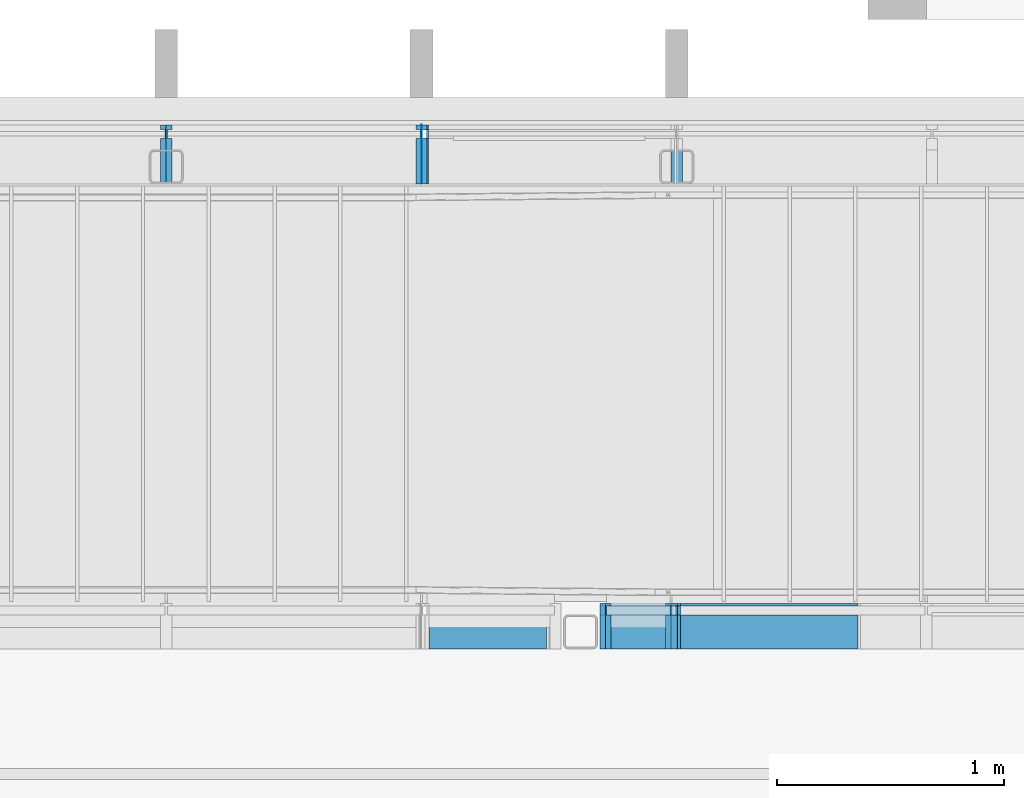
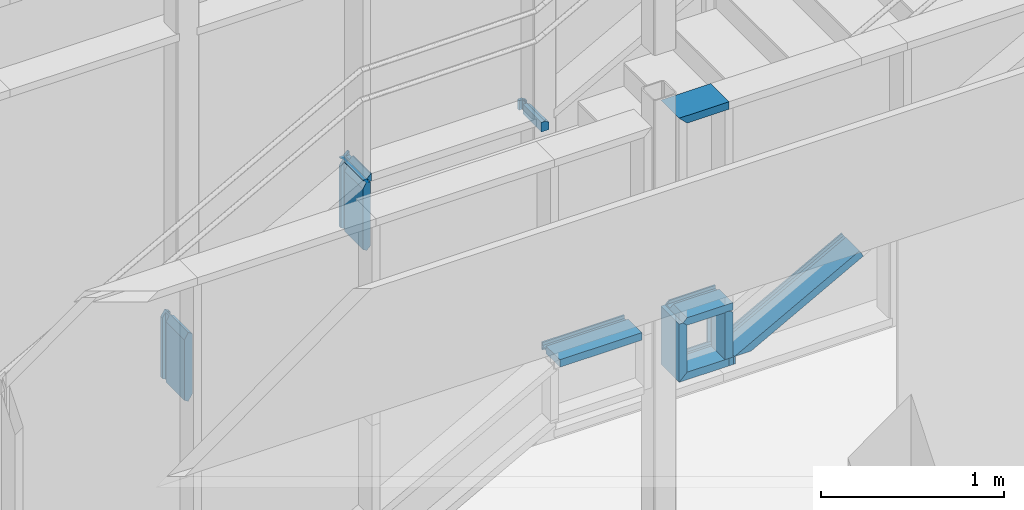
# One storey, part 68 of 301: 15 members, 3 elements without a shape of their own.
"""IFC2X3 building model written with IfcOpenShell, lengths in millimetres."""

from ifc_helpers import new_model, entity, si_unit, converted_unit, derived_unit, money_unit, direction, frame, origin_with_axes, place, context, subcontext, project, spatial, faceted_brep, material, type_object, element, aggregate, save


model = new_model("IFC2X3")

# Units and contexts
model_context = context("Model", 3, precision=0.01, world=origin_with_axes(), true_north=direction((0.0, 1.0)))
body_context = subcontext(model_context, "Body", "Model", "MODEL_VIEW")
ifc_project = project(units=[si_unit("LENGTHUNIT", "METRE", prefix="MILLI"), si_unit("AREAUNIT", "SQUARE_METRE"), si_unit("VOLUMEUNIT", "CUBIC_METRE"), converted_unit("PLANEANGLEUNIT", "DEGREE", entity("IfcPlaneAngleMeasure", 0.0174532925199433), si_unit("PLANEANGLEUNIT", "RADIAN"), dimensions=[0, 0, 0, 0, 0, 0, 0]), money_unit("EUR"), converted_unit("TIMEUNIT", "Year", entity("IfcTimeMeasure", 31557600.0), si_unit("TIMEUNIT", "SECOND"), dimensions=[0, 0, 1, 0, 0, 0, 0]), si_unit("MASSUNIT", "GRAM", prefix="KILO"), si_unit("THERMODYNAMICTEMPERATUREUNIT", "DEGREE_CELSIUS"), si_unit("LUMINOUSINTENSITYUNIT", "LUMEN"), si_unit("ENERGYUNIT", "JOULE", prefix="MEGA"), derived_unit("THERMALCONDUCTANCEUNIT", [(si_unit("POWERUNIT", "WATT"), 1), (si_unit("LENGTHUNIT", "METRE"), -1), (si_unit("THERMODYNAMICTEMPERATUREUNIT", "KELVIN"), -1)]), derived_unit("SPECIFICHEATCAPACITYUNIT", [(si_unit("ENERGYUNIT", "JOULE"), 1), (si_unit("MASSUNIT", "GRAM", prefix="KILO"), -1), (si_unit("THERMODYNAMICTEMPERATUREUNIT", "KELVIN"), -1)]), derived_unit("MASSDENSITYUNIT", [(si_unit("MASSUNIT", "GRAM", prefix="KILO"), 1), (si_unit("VOLUMEUNIT", "CUBIC_METRE"), -1)])], contexts=[model_context])

# Site, building, storey
site_placement = place(None, frame((0.0, 0.0, 8650.0), z_axis=(0.0, 0.0, 1.0), x_axis=(1.0, 0.0, 0.0)))
site = spatial("IfcSite", under=ifc_project, at=site_placement, Name="43301:001:0844", CompositionType="ELEMENT")
building_placement = place(site_placement, origin_with_axes())
building = spatial("IfcBuilding", under=site, at=building_placement, Name="Kuressaare Ametikooli tuulikute mehaanikute õppekorpus", CompositionType="ELEMENT")
storey_placement = place(building_placement, origin_with_axes())
storey = spatial("IfcBuildingStorey", under=building, at=storey_placement, Name="1.korrus", CompositionType="ELEMENT", Elevation=0.0)

# Curtain wall, members
curtain_wall_type = type_object("IfcCurtainWallType", Name="Curtain Wall Type", PredefinedType="NOTDEFINED")
curtain_wall_1_placement = place(storey_placement, frame((116704.6026822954, 28579.57374875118, 35.00000000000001), z_axis=(0.0, 0.0, 1.0), x_axis=(1.0, 0.0, 0.0)))
curtain_wall_1 = element("IfcCurtainWall", 1, at=curtain_wall_1_placement, inside=storey, type_object=curtain_wall_type, Name="KF-1.1")
ifc_material = material(Name="Aluminium")
member_type_1 = type_object("IfcMemberType", Name="Mullion Frame 50 x 260", PredefinedType="NOTDEFINED")
member_1_placement = place(curtain_wall_1_placement, frame((-5062.5, 0.0, 2040.00001873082), z_axis=(0.0, 0.0, 1.0), x_axis=(-1.0, 0.0, 0.0)))
member_1 = element("IfcMember", 2, at=member_1_placement, type_object=member_type_1, material=ifc_material, context=body_context, shape_type="Brep", body=[
    faceted_brep([(-4.999999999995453, 19.99999999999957, 60.84990079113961), (-4.999999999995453, -19.99999999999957, 60.84990079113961), (-25.00000000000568, -19.99999999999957, 48.95795386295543), (-25.00000000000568, -39.99999999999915, 48.95795386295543), (0.0, -39.99999999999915, 63.82288752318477), (0.0, 219.9999999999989, 63.82288752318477), (-25.00000000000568, 219.9999999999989, 48.95795386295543), (-25.00000000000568, 19.99999999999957, 48.95795386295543), (-4.999999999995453, 19.99999999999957, 0.0), (-4.999999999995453, -19.99999999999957, 0.0), (-25.00000000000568, -19.99999999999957, 0.0), (-25.00000000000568, -39.99999999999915, 0.0), (25.00000000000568, -39.99999999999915, 0.0), (25.00000000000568, -39.99999999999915, 63.82288752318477), (25.00000000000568, -19.99999999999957, 63.82288752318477), (4.999999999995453, -19.99999999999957, 63.82288752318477), (4.999999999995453, 19.99999999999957, 63.82288752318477), (25.00000000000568, 19.99999999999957, 63.82288752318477), (25.00000000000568, 219.9999999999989, 63.82288752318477), (25.00000000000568, 219.9999999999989, 0.0), (-25.00000000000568, 219.9999999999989, 0.0), (-25.00000000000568, 19.99999999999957, 0.0), (25.00000000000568, 19.99999999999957, 0.0), (4.999999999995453, 19.99999999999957, 0.0), (4.999999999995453, -19.99999999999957, 0.0), (25.00000000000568, -19.99999999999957, 0.0)], [[[0, 1, 2, 3, 4, 5, 6, 7]], [[0, 8, 9, 1]], [[1, 9, 10, 2]], [[10, 11, 3, 2]], [[11, 12, 13, 4, 3]], [[5, 4, 13, 14, 15, 16, 17, 18]], [[18, 19, 20, 6, 5]], [[7, 6, 20, 21]], [[7, 21, 8, 0]], [[9, 8, 21, 20, 19, 22, 23, 24, 25, 12, 11, 10]], [[25, 14, 13, 12]], [[14, 25, 24, 15]], [[16, 15, 24, 23]], [[17, 16, 23, 22]], [[17, 22, 19, 18]]]),
])
member_2_placement = place(curtain_wall_1_placement, frame((-6156.316775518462, 0.0, 2113.548820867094), z_axis=(-1.0, 0.0, 0.0), x_axis=(0.0, 0.0, -1.0)))
member_2 = element("IfcMember", 3, at=member_2_placement, type_object=member_type_1, material=ifc_material, context=body_context, shape_type="Brep", body=[
    faceted_brep([(-4.999999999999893, 19.99999999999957, 26.18322448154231), (-4.999999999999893, -19.99999999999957, 26.18322448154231), (-24.99999999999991, -19.99999999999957, 6.183224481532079), (-24.99999999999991, -39.99999999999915, 6.183224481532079), (0.0, -39.99999999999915, 31.18322448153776), (0.0, 219.9999999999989, 31.18322448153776), (-24.99999999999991, 219.9999999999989, 6.183224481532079), (-24.99999999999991, 19.99999999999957, 6.183224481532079), (-4.999999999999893, 19.99999999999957, 0.0), (-4.999999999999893, -19.99999999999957, 0.0), (-24.99999999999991, -19.99999999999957, 0.0), (-24.99999999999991, -39.99999999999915, 0.0), (24.99999999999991, -39.99999999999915, 0.0), (24.99999999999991, -39.99999999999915, 6.183224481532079), (24.99999999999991, -19.99999999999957, 6.183224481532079), (4.999999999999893, -19.99999999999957, 26.18322448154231), (4.999999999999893, 19.99999999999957, 26.18322448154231), (24.99999999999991, 19.99999999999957, 6.183224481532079), (24.99999999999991, 219.9999999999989, 6.183224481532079), (24.99999999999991, 219.9999999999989, 0.0), (-24.99999999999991, 219.9999999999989, 0.0), (-24.99999999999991, 19.99999999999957, 0.0), (24.99999999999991, 19.99999999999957, 0.0), (4.999999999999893, 19.99999999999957, 0.0), (4.999999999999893, -19.99999999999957, 0.0), (24.99999999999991, -19.99999999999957, 0.0)], [[[0, 1, 2, 3, 4, 5, 6, 7]], [[0, 8, 9, 1]], [[1, 9, 10, 2]], [[10, 11, 3, 2]], [[11, 12, 13, 4, 3]], [[5, 4, 13, 14, 15, 16, 17, 18]], [[18, 19, 20, 6, 5]], [[7, 6, 20, 21]], [[7, 21, 8, 0]], [[9, 8, 21, 20, 19, 22, 23, 24, 25, 12, 11, 10]], [[25, 14, 13, 12]], [[14, 25, 24, 15]], [[16, 15, 24, 23]], [[17, 16, 23, 22]], [[17, 22, 19, 18]]]),
])
member_3_placement = place(curtain_wall_1_placement, frame((-6187.5, 0.0, 2095.05079351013), z_axis=(0.0, 0.0, 1.0), x_axis=(-1.0, 0.0, 0.0)))
member_3 = element("IfcMember", 4, at=member_3_placement, type_object=member_type_1, material=ifc_material, context=body_context, shape_type="Brep", body=[
    faceted_brep([(-4.999999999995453, 19.99999999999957, 13.49802735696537), (-4.999999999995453, -19.99999999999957, 13.49802735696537), (-6.712122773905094, -19.99999999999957, 11.78590458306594), (-6.712122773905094, -39.99999999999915, 11.78590458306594), (0.0, -39.99999999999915, 18.49802735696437), (0.0, 219.9999999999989, 18.49802735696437), (-6.712122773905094, 219.9999999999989, 11.78590458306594), (-6.712122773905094, 19.99999999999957, 11.78590458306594), (-4.999999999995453, 19.99999999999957, 8.779565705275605), (-4.999999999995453, -19.99999999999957, 8.779565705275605), (0.0, 219.9999999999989, 0.0), (0.0, -39.99999999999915, 0.0), (25.00000000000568, -39.99999999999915, 14.86382949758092), (25.00000000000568, -39.99999999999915, 18.49802735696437), (25.00000000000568, -19.99999999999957, 18.49802735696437), (4.999999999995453, -19.99999999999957, 18.49802735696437), (4.999999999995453, 19.99999999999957, 18.49802735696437), (25.00000000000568, 19.99999999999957, 18.49802735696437), (25.00000000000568, 219.9999999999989, 18.49802735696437), (25.00000000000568, 219.9999999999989, 14.86382949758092), (25.00000000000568, 19.99999999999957, 14.86382949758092), (4.999999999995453, 19.99999999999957, 2.972765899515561), (4.999999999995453, -19.99999999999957, 2.972765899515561), (25.00000000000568, -19.99999999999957, 14.86382949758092)], [[[0, 1, 2, 3, 4, 5, 6, 7]], [[0, 8, 9, 1]], [[1, 9, 2]], [[9, 8, 7, 6, 10, 11, 3, 2]], [[12, 13, 4, 3, 11]], [[5, 4, 13, 14, 15, 16, 17, 18]], [[6, 5, 18, 19, 10]], [[7, 8, 0]], [[12, 11, 10, 19, 20, 21, 22, 23]], [[23, 14, 13, 12]], [[14, 23, 22, 15]], [[16, 15, 22, 21]], [[17, 16, 21, 20]], [[17, 20, 19, 18]]]),
])
member_4_placement = place(curtain_wall_1_placement, frame((-6187.5, 0.0, 1635.327982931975), z_axis=(0.0, 0.0, 1.0), x_axis=(-1.0, 0.0, 0.0)))
member_4 = element("IfcMember", 5, at=member_4_placement, type_object=member_type_1, material=ifc_material, context=body_context, shape_type="Brep", body=[
    faceted_brep([(-4.999999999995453, 19.99999999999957, 456.8752893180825), (-4.999999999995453, -19.99999999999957, 456.8752893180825), (-25.00000000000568, -19.99999999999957, 445.4852042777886), (-25.00000000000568, -39.99999999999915, 445.4852042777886), (0.0, -39.99999999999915, 459.722810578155), (0.0, 219.9999999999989, 459.722810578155), (-25.00000000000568, 219.9999999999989, 445.4852042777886), (-25.00000000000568, 19.99999999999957, 445.4852042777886), (-4.999999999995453, 19.99999999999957, 4.999999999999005), (-4.999999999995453, -19.99999999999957, 4.999999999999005), (-25.00000000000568, -19.99999999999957, 24.99999999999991), (-25.00000000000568, -39.99999999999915, 24.99999999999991), (0.0, -39.99999999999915, 0.0), (25.00000000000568, -39.99999999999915, 14.86382929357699), (25.00000000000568, -39.99999999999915, 417.6744272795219), (25.00000000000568, -19.99999999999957, 417.6744272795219), (4.999999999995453, -19.99999999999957, 451.3131339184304), (4.999999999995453, 19.99999999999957, 451.3131339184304), (25.00000000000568, 19.99999999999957, 417.6744272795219), (25.00000000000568, 219.9999999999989, 417.6744272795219), (0.0, 219.9999999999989, 0.0), (-25.00000000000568, 219.9999999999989, 24.99999999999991), (25.00000000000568, 219.9999999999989, 14.86382929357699), (-25.00000000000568, 19.99999999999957, 24.99999999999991), (25.00000000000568, 19.99999999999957, 14.86382929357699), (4.999999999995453, 19.99999999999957, 2.972765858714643), (4.999999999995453, -19.99999999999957, 2.972765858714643), (25.00000000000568, -19.99999999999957, 14.86382929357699)], [[[0, 1, 2, 3, 4, 5, 6, 7]], [[0, 8, 9, 1]], [[1, 9, 10, 2]], [[10, 11, 3, 2]], [[12, 13, 14, 4, 3, 11]], [[5, 4, 14, 15, 16, 17, 18, 19]], [[20, 21, 6, 5, 19, 22]], [[7, 6, 21, 23]], [[7, 23, 8, 0]], [[9, 8, 23, 21, 20, 12, 11, 10]], [[13, 12, 20, 22, 24, 25, 26, 27]], [[27, 15, 14, 13]], [[15, 27, 26, 16]], [[17, 16, 26, 25]], [[18, 17, 25, 24]], [[18, 24, 22, 19]]]),
])
member_5_placement = place(curtain_wall_1_placement, frame((-6185.842085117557, 0.0, 2096.034275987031), z_axis=(-0.8600606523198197, 0.0, -0.5101918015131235), x_axis=(0.5101918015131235, 0.0, -0.8600606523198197)))
member_5 = element("IfcMember", 6, at=member_5_placement, type_object=member_type_1, material=ifc_material, context=body_context, shape_type="Brep", body=[
    faceted_brep([(-1.097817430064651, -39.99999999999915, 0.0), (3.384824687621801, -39.99999999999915, 0.0), (0.0, -39.99999999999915, 1.927672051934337), (-1.097817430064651, 219.9999999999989, 0.0), (3.384824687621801, 219.9999999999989, 0.0), (0.0, 219.9999999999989, 1.927672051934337)], [[[0, 1, 2]], [[3, 4, 1, 0]], [[4, 5, 2, 1]], [[2, 5, 3, 0]], [[5, 4, 3]]]),
])
member_6_placement = place(curtain_wall_1_placement, frame((-7312.5, 0.0, 1023.6755048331), z_axis=(0.0, 0.0, 1.0), x_axis=(-1.0, 0.0, 0.0)))
member_6 = element("IfcMember", 7, at=member_6_placement, type_object=member_type_1, material=ifc_material, context=body_context, shape_type="Brep", body=[
    faceted_brep([(-4.999999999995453, 19.99999999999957, 456.7500622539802), (-4.999999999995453, -19.99999999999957, 456.7500622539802), (-25.00000000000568, -19.99999999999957, 444.8589986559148), (-25.00000000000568, -39.99999999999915, 444.8589986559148), (0.0, -39.99999999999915, 459.7228281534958), (0.0, 219.9999999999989, 459.7228281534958), (-25.00000000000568, 219.9999999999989, 444.8589986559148), (-25.00000000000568, 19.99999999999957, 444.8589986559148), (-4.999999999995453, 19.99999999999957, 8.409676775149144), (-4.999999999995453, -19.99999999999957, 8.409676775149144), (-25.00000000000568, -19.99999999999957, 42.04838387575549), (-25.00000000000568, -39.99999999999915, 42.04838387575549), (0.0, -39.99999999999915, 0.0), (25.00000000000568, -39.99999999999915, 14.86382929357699), (25.00000000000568, -39.99999999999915, 417.6744457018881), (25.00000000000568, -19.99999999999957, 417.6744457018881), (4.999999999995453, -19.99999999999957, 451.3131516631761), (4.999999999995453, 19.99999999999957, 451.3131516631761), (25.00000000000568, 19.99999999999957, 417.6744457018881), (25.00000000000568, 219.9999999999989, 417.6744457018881), (0.0, 219.9999999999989, 0.0), (-25.00000000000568, 219.9999999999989, 42.04838387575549), (25.00000000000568, 219.9999999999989, 14.86382929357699), (-25.00000000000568, 19.99999999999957, 42.04838387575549), (25.00000000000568, 19.99999999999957, 14.86382929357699), (4.999999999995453, 19.99999999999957, 2.972765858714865), (4.999999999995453, -19.99999999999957, 2.972765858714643), (25.00000000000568, -19.99999999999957, 14.86382929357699)], [[[0, 1, 2, 3, 4, 5, 6, 7]], [[0, 8, 9, 1]], [[1, 9, 10, 2]], [[10, 11, 3, 2]], [[12, 13, 14, 4, 3, 11]], [[5, 4, 14, 15, 16, 17, 18, 19]], [[20, 21, 6, 5, 19, 22]], [[7, 6, 21, 23]], [[7, 23, 8, 0]], [[9, 8, 23, 21, 20, 12, 11, 10]], [[13, 12, 20, 22, 24, 25, 26, 27]], [[27, 15, 14, 13]], [[15, 27, 26, 16]], [[17, 16, 26, 25]], [[18, 17, 25, 24]], [[18, 24, 22, 19]]]),
])
aggregate(curtain_wall_1, [member_1, member_2, member_3, member_4, member_5, member_6])

# Curtain wall, member
curtain_wall_2_placement = place(storey_placement, frame((105155.4360221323, 26479.57374875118, 34.99996632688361), z_axis=(0.0, 0.0, 1.0), x_axis=(1.0, 0.0, 0.0)))
curtain_wall_2 = element("IfcCurtainWall", 8, at=curtain_wall_2_placement, inside=storey, type_object=curtain_wall_type, Name="SKF-1.1,EI60")
member_type_2 = type_object("IfcMemberType", Name="Boundary Frame 50 x 200", PredefinedType="NOTDEFINED")
member_7_placement = place(curtain_wall_2_placement, frame((5395.56703679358, 0.0, 2113.548871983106), z_axis=(1.0, 0.0, 0.0), x_axis=(0.0, 0.0, 1.0)))
member_7 = element("IfcMember", 9, at=member_7_placement, type_object=member_type_2, material=ifc_material, context=body_context, shape_type="Brep", body=[
    faceted_brep([(-5.000000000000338, 19.99999999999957, 518.0458963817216), (-5.000000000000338, -19.99999999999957, 518.0458963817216), (-25.00000000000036, -19.99999999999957, 518.0458963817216), (-25.00000000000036, -30.00000000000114, 518.0458963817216), (24.99999999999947, -30.00000000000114, 518.0458963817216), (24.99999999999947, -19.99999999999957, 518.0458963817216), (4.999999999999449, -19.99999999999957, 518.0458963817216), (4.999999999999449, 19.99999999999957, 518.0458963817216), (24.99999999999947, 19.99999999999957, 518.0458963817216), (24.99999999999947, 170.0000000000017, 518.0458963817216), (-25.00000000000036, 170.0000000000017, 518.0458963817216), (-25.00000000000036, 19.99999999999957, 518.0458963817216), (-4.999999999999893, 19.99999999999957, 0.0), (-4.999999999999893, -19.99999999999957, 0.0), (-24.99999999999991, -19.99999999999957, 0.0), (-24.99999999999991, -30.00000000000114, 0.0), (24.99999999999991, -30.00000000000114, 0.0), (24.99999999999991, -19.99999999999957, 0.0), (4.999999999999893, -19.99999999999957, 0.0), (4.999999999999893, 19.99999999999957, 0.0), (24.99999999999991, 19.99999999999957, 0.0), (24.99999999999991, 170.0000000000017, 0.0), (-24.99999999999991, 170.0000000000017, 0.0), (-24.99999999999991, 19.99999999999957, 0.0)], [[[0, 1, 2, 3, 4, 5, 6, 7, 8, 9, 10, 11]], [[0, 12, 13, 1]], [[1, 13, 14, 2]], [[14, 15, 3, 2]], [[3, 15, 16, 4]], [[17, 5, 4, 16]], [[5, 17, 18, 6]], [[7, 6, 18, 19]], [[8, 7, 19, 20]], [[8, 20, 21, 9]], [[9, 21, 22, 10]], [[11, 10, 22, 23]], [[11, 23, 12, 0]], [[13, 12, 23, 22, 21, 20, 19, 18, 17, 16, 15, 14]]]),
])
aggregate(curtain_wall_2, [member_7])

# Curtain wall, members
curtain_wall_3_placement = place(storey_placement, frame((111472.5258007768, 26479.57374875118, 1595.348937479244), z_axis=(0.0, 0.0, 1.0), x_axis=(1.0, 0.0, 0.0)))
curtain_wall_3 = element("IfcCurtainWall", 10, at=curtain_wall_3_placement, inside=storey, type_object=curtain_wall_type, Name="SKF-1.2,EI60")
member_8_placement = place(curtain_wall_3_placement, frame((144.5766565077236, 0.0, 1900.000036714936), z_axis=(-1.0, 0.0, 0.0), x_axis=(0.0, 0.0, -1.0)))
member_8 = element("IfcMember", 11, at=member_8_placement, type_object=member_type_2, material=ifc_material, context=body_context, shape_type="Brep", body=[
    faceted_brep([(4.999999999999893, 19.99999999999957, 284.15330683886), (24.99999999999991, 19.99999999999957, 264.1533068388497), (24.99999999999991, 170.0000000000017, 264.1533068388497), (-24.99999999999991, 170.0000000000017, 314.1533068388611), (-24.99999999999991, -30.00000000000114, 314.1533068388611), (24.99999999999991, -30.00000000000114, 264.1533068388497), (24.99999999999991, -19.99999999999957, 264.1533068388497), (4.999999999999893, -19.99999999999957, 284.15330683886), (4.999999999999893, 19.99999999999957, 0.0), (24.99999999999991, 19.99999999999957, 0.0), (24.99999999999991, 170.0000000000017, 0.0), (-24.99999999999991, 170.0000000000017, 0.0), (-24.99999999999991, -30.00000000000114, 0.0), (24.99999999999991, -30.00000000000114, 0.0), (24.99999999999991, -19.99999999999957, 0.0), (4.999999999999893, -19.99999999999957, 0.0)], [[[0, 1, 2, 3, 4, 5, 6, 7]], [[0, 8, 9, 1]], [[9, 10, 2, 1]], [[10, 11, 3, 2]], [[11, 12, 4, 3]], [[12, 13, 5, 4]], [[6, 5, 13, 14]], [[14, 15, 7, 6]], [[7, 15, 8, 0]], [[8, 15, 14, 13, 12, 11, 10, 9]]]),
])
member_9_placement = place(curtain_wall_3_placement, frame((172.2867258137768, 0.0, 189.3508718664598), z_axis=(-0.9999999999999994, 0.0, -3.390059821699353e-08), x_axis=(3.390059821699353e-08, 0.0, -0.9999999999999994)))
member_9 = element("IfcMember", 12, at=member_9_placement, type_object=member_type_2, material=ifc_material, context=body_context, shape_type="Brep", body=[
    faceted_brep([(-5.000000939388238, 19.99999999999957, 27.71008233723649), (-5.000000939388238, -19.99999999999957, 27.71008233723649), (-25.00000093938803, -19.99999999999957, 27.7100816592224), (-25.00000093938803, -30.00000000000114, 27.7100816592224), (24.99999906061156, -30.00000000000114, 27.71008335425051), (24.99999906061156, -19.99999999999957, 27.71008335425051), (4.999999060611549, -19.99999999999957, 27.71008267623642), (4.999999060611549, 19.99999999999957, 27.71008267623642), (24.99999906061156, 19.99999999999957, 27.71008335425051), (24.99999906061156, 170.0000000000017, 27.71008335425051), (-25.00000093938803, 170.0000000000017, 27.7100816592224), (-25.00000093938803, 19.99999999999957, 27.7100816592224), (-4.999999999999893, 19.99999999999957, -1.695070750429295e-07), (-4.999999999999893, -19.99999999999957, -1.695070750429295e-07), (-24.99999999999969, -19.99999999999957, -8.475211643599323e-07), (-24.99999999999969, -30.00000000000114, -8.475211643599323e-07), (24.99999999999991, -30.00000000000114, 8.475069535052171e-07), (24.99999999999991, -19.99999999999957, 8.475069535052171e-07), (4.999999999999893, -19.99999999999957, 1.694928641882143e-07), (4.999999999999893, 19.99999999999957, 1.694928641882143e-07), (24.99999999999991, 19.99999999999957, 8.475069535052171e-07), (24.99999999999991, 170.0000000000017, 8.475069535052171e-07), (-24.99999999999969, 170.0000000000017, -8.475211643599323e-07), (-24.99999999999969, 19.99999999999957, -8.475211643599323e-07)], [[[0, 1, 2, 3, 4, 5, 6, 7, 8, 9, 10, 11]], [[0, 12, 13, 1]], [[1, 13, 14, 2]], [[14, 15, 3, 2]], [[3, 15, 16, 4]], [[17, 5, 4, 16]], [[5, 17, 18, 6]], [[7, 6, 18, 19]], [[8, 7, 19, 20]], [[8, 20, 21, 9]], [[9, 21, 22, 10]], [[11, 10, 22, 23]], [[11, 23, 12, 0]], [[13, 12, 23, 22, 21, 20, 19, 18, 17, 16, 15, 14]]]),
])
member_10_placement = place(curtain_wall_3_placement, frame((185.9341677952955, 0.0, 189.3508723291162), z_axis=(-0.9999999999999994, 0.0, -3.390059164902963e-08), x_axis=(3.390059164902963e-08, 0.0, -0.9999999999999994)))
member_10 = element("IfcMember", 13, at=member_10_placement, type_object=member_type_2, material=ifc_material, context=body_context, shape_type="Brep", body=[
    faceted_brep([(-5.000000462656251, 19.99999999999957, 13.64744181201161), (-5.000000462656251, -19.99999999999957, 13.64744181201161), (-25.00000046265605, -19.99999999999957, 13.64744113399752), (-25.00000046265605, -30.00000000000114, 13.64744113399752), (24.99999953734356, -30.00000000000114, 13.64744282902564), (24.99999953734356, -19.99999999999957, 13.64744282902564), (4.999999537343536, -19.99999999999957, 13.64744215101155), (4.999999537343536, 19.99999999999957, 13.64744215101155), (24.99999953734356, 19.99999999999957, 13.64744282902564), (24.99999953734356, 170.0000000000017, 13.64744282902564), (-25.00000046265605, 170.0000000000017, 13.64744113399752), (-25.00000046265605, 19.99999999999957, 13.64744113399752), (-4.999999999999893, 19.99999999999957, -1.695070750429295e-07), (-4.999999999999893, -19.99999999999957, -1.695070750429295e-07), (-24.99999999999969, -19.99999999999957, -8.475211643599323e-07), (-24.99999999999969, -30.00000000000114, -8.475211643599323e-07), (24.99999999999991, -30.00000000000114, 8.475069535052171e-07), (24.99999999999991, -19.99999999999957, 8.475069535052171e-07), (4.999999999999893, -19.99999999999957, 1.694928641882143e-07), (4.999999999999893, 19.99999999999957, 1.694928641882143e-07), (24.99999999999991, 19.99999999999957, 8.475069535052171e-07), (24.99999999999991, 170.0000000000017, 8.475069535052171e-07), (-24.99999999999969, 170.0000000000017, -8.475211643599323e-07), (-24.99999999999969, 19.99999999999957, -8.475211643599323e-07)], [[[0, 1, 2, 3, 4, 5, 6, 7, 8, 9, 10, 11]], [[0, 12, 13, 1]], [[1, 13, 14, 2]], [[14, 15, 3, 2]], [[3, 15, 16, 4]], [[17, 5, 4, 16]], [[5, 17, 18, 6]], [[7, 6, 18, 19]], [[8, 7, 19, 20]], [[8, 20, 21, 9]], [[9, 21, 22, 10]], [[11, 10, 22, 23]], [[11, 23, 12, 0]], [[13, 12, 23, 22, 21, 20, 19, 18, 17, 16, 15, 14]]]),
])
member_11_placement = place(curtain_wall_3_placement, frame((144.5766441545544, 0.0, 552.4643932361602), z_axis=(-1.0, 0.0, 0.0), x_axis=(0.0, 0.0, -1.0)))
member_11 = element("IfcMember", 14, at=member_11_placement, type_object=member_type_2, material=ifc_material, context=body_context, shape_type="Brep", body=[
    faceted_brep([(-4.999999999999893, 19.99999999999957, 284.1532944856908), (-4.999999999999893, -19.99999999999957, 284.1532944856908), (-24.99999999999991, -19.99999999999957, 264.1532944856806), (-24.99999999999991, -30.00000000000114, 264.1532944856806), (0.0, -30.00000000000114, 289.1532944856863), (0.0, 170.0000000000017, 289.1532944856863), (-24.99999999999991, 170.0000000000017, 264.1532944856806), (-24.99999999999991, 19.99999999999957, 264.1532944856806), (-4.999999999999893, 19.99999999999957, -25.00000011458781), (-4.999999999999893, -19.99999999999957, -25.00000011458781), (-24.99999999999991, -19.99999999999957, -25.00000011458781), (-24.99999999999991, -30.00000000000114, -25.00000011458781), (24.99999999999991, -30.00000000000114, -25.00000011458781), (24.99999999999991, -30.00000000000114, 264.1532944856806), (24.99999999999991, -19.99999999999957, 264.1532944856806), (4.999999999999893, -19.99999999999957, 284.1532944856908), (4.999999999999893, 19.99999999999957, 284.1532944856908), (24.99999999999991, 19.99999999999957, 264.1532944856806), (24.99999999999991, 170.0000000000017, 264.1532944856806), (24.99999999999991, 170.0000000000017, -25.00000011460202), (-24.99999999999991, 170.0000000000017, -25.00000011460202), (-24.99999999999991, 19.99999999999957, -25.00000011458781), (24.99999999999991, 19.99999999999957, -25.00000011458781), (4.999999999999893, 19.99999999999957, -25.00000011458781), (4.999999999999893, -19.99999999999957, -25.00000011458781), (24.99999999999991, -19.99999999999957, -25.00000011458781)], [[[0, 1, 2, 3, 4, 5, 6, 7]], [[0, 8, 9, 1]], [[1, 9, 10, 2]], [[10, 11, 3, 2]], [[11, 12, 13, 4, 3]], [[5, 4, 13, 14, 15, 16, 17, 18]], [[18, 19, 20, 6, 5]], [[7, 6, 20, 21]], [[7, 21, 8, 0]], [[9, 8, 21, 20, 19, 22, 23, 24, 25, 12, 11, 10]], [[25, 14, 13, 12]], [[14, 25, 24, 15]], [[16, 15, 24, 23]], [[17, 16, 23, 22]], [[17, 22, 19, 18]]]),
])
member_12_placement = place(curtain_wall_3_placement, frame((-144.5766503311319, 0.0, 189.3508709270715), z_axis=(0.0, 0.0, 1.0), x_axis=(-1.0, 0.0, 0.0)))
member_12 = element("IfcMember", 15, at=member_12_placement, type_object=member_type_2, material=ifc_material, context=body_context, shape_type="Brep", body=[
    faceted_brep([(-4.999999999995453, 19.99999999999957, 358.1135223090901), (-4.999999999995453, -19.99999999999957, 358.1135223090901), (-25.00000000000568, -19.99999999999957, 338.1135223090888), (-25.00000000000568, -30.00000000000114, 338.1135223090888), (0.0, -30.00000000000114, 363.1135223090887), (0.0, 170.0000000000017, 363.1135223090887), (-25.00000000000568, 170.0000000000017, 338.1135223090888), (-25.00000000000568, 19.99999999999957, 338.1135223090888), (-4.999999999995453, 19.99999999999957, 4.999999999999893), (-4.999999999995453, -19.99999999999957, 4.999999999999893), (-25.00000000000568, -19.99999999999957, 25.00000000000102), (-25.00000000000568, -30.00000000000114, 25.00000000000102), (25.00000000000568, -30.00000000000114, -24.99999999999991), (25.00000000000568, -30.00000000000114, 363.1135223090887), (25.00000000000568, 170.0000000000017, 363.1135223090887), (25.00000000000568, 170.0000000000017, -24.99999999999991), (-25.00000000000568, 170.0000000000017, 25.00000000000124), (-25.00000000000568, 19.99999999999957, 25.00000000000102)], [[[0, 1, 2, 3, 4, 5, 6, 7]], [[1, 0, 8, 9]], [[10, 2, 1, 9]], [[2, 10, 11, 3]], [[11, 12, 13, 4, 3]], [[4, 13, 14, 5]], [[14, 15, 16, 6, 5]], [[17, 7, 6, 16]], [[0, 7, 17, 8]], [[8, 17, 16, 15, 12, 11, 10, 9]], [[14, 13, 12, 15]]]),
])
member_13_placement = place(curtain_wall_3_placement, frame((144.5766441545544, 0.0, 189.3508709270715), z_axis=(-1.0, 0.0, 0.0), x_axis=(0.0, 0.0, -1.0)))
member_13 = element("IfcMember", 16, at=member_13_placement, type_object=member_type_2, material=ifc_material, context=body_context, shape_type="Brep", body=[
    faceted_brep([(-4.999999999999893, 19.99999999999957, 284.1532944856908), (-4.999999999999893, -19.99999999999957, 284.1532944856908), (-24.99999999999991, -19.99999999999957, 264.1532944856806), (-24.99999999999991, -30.00000000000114, 264.1532944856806), (24.99999999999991, -30.00000000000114, 314.153294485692), (24.99999999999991, -19.99999999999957, 314.153294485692), (4.999999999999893, -19.99999999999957, 294.1532944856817), (4.999999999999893, 19.99999999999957, 294.1532944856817), (24.99999999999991, 19.99999999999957, 314.153294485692), (24.99999999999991, 170.0000000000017, 314.153294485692), (-24.99999999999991, 170.0000000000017, 264.1532944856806), (-24.99999999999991, 19.99999999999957, 264.1532944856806), (-4.999999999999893, 19.99999999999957, -8.475211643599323e-07), (-4.999999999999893, -19.99999999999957, -8.475211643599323e-07), (-24.99999999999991, -19.99999999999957, -8.475211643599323e-07), (-24.99999999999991, -30.00000000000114, -8.475211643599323e-07), (24.99999999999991, -30.00000000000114, -8.475211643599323e-07), (24.99999999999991, -19.99999999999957, -8.475211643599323e-07), (4.999999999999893, -19.99999999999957, -8.475211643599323e-07), (4.999999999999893, 19.99999999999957, -8.475211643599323e-07), (24.99999999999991, 19.99999999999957, -8.475211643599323e-07), (24.99999999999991, 170.0000000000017, -8.475211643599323e-07), (-24.99999999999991, 170.0000000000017, -8.475211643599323e-07), (-24.99999999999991, 19.99999999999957, -8.475211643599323e-07)], [[[0, 1, 2, 3, 4, 5, 6, 7, 8, 9, 10, 11]], [[0, 12, 13, 1]], [[1, 13, 14, 2]], [[14, 15, 3, 2]], [[3, 15, 16, 4]], [[17, 5, 4, 16]], [[5, 17, 18, 6]], [[7, 6, 18, 19]], [[8, 7, 19, 20]], [[8, 20, 21, 9]], [[9, 21, 22, 10]], [[11, 10, 22, 23]], [[11, 23, 12, 0]], [[13, 12, 23, 22, 21, 20, 19, 18, 17, 16, 15, 14]]]),
])
member_type_3 = type_object("IfcMemberType", Name="Mullion Frame 50 x 200", PredefinedType="NOTDEFINED")
member_14_placement = place(curtain_wall_3_placement, frame((144.5766441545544, 0.0, 189.3508709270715), z_axis=(0.0, 0.0, 1.0), x_axis=(-1.0, 0.0, 0.0)))
member_14 = element("IfcMember", 17, at=member_14_placement, type_object=member_type_3, material=ifc_material, context=body_context, shape_type="Brep", body=[
    faceted_brep([(-4.999999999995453, 19.99999999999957, 337.009643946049), (-4.999999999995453, -19.99999999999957, 337.009643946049), (-25.00000000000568, -19.99999999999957, 325.1193391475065), (-25.00000000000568, -30.00000000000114, 325.1193391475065), (0.0, -30.00000000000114, 339.9822201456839), (0.0, 170.0000000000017, 339.9822201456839), (-25.00000000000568, 170.0000000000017, 325.1193391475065), (-25.00000000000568, 19.99999999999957, 325.1193391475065), (-4.999999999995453, 19.99999999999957, 24.99999999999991), (-4.999999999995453, -19.99999999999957, 24.99999999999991), (-25.00000000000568, -19.99999999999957, 24.99999999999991), (-25.00000000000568, -30.00000000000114, 24.99999999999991), (25.00000000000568, -30.00000000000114, 24.99999999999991), (25.00000000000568, -30.00000000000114, 339.9822201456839), (25.00000000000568, -19.99999999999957, 339.9822201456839), (4.999999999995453, -19.99999999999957, 339.9822201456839), (4.999999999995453, 19.99999999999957, 339.9822201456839), (25.00000000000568, 19.99999999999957, 339.9822201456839), (25.00000000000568, 170.0000000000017, 339.9822201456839), (25.00000000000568, 170.0000000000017, 24.99999999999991), (-25.00000000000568, 170.0000000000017, 24.99999999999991), (-25.00000000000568, 19.99999999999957, 24.99999999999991), (25.00000000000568, 19.99999999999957, 24.99999999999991), (4.999999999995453, 19.99999999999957, 24.99999999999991), (4.999999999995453, -19.99999999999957, 24.99999999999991), (25.00000000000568, -19.99999999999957, 24.99999999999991)], [[[0, 1, 2, 3, 4, 5, 6, 7]], [[0, 8, 9, 1]], [[1, 9, 10, 2]], [[10, 11, 3, 2]], [[11, 12, 13, 4, 3]], [[5, 4, 13, 14, 15, 16, 17, 18]], [[18, 19, 20, 6, 5]], [[7, 6, 20, 21]], [[7, 21, 8, 0]], [[9, 8, 21, 20, 19, 22, 23, 24, 25, 12, 11, 10]], [[25, 14, 13, 12]], [[14, 25, 24, 15]], [[16, 15, 24, 23]], [[17, 16, 23, 22]], [[17, 22, 19, 18]]]),
])
member_15_placement = place(curtain_wall_3_placement, frame((980.4233496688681, 0.0, 621.3675402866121), z_axis=(-0.8785182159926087, 0.0, -0.4777088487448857), x_axis=(0.4777088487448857, 0.0, -0.8785182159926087)))
member_15 = element("IfcMember", 18, at=member_15_placement, type_object=member_type_3, material=ifc_material, context=body_context, shape_type="Brep", body=[
    faceted_brep([(-5.000000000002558, 19.99999999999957, 861.2133916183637), (-5.000000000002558, -19.99999999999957, 861.2133916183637), (-24.99999999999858, -19.99999999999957, 897.9938820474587), (-24.99999999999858, -30.00000000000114, 897.9938820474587), (24.99999999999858, -30.00000000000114, 806.0426559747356), (24.99999999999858, -19.99999999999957, 806.0426559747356), (4.999999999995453, -19.99999999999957, 842.8231464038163), (4.999999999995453, 19.99999999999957, 842.8231464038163), (24.99999999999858, 19.99999999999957, 806.0426559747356), (24.99999999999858, 170.0000000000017, 806.0426559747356), (-24.99999999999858, 170.0000000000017, 897.9938820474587), (-24.99999999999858, 19.99999999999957, 897.9938820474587), (-5.000000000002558, 19.99999999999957, -1.285869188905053e-06), (-5.000000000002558, -19.99999999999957, -1.285869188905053e-06), (-24.99999999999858, -19.99999999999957, -1.285869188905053e-06), (-24.99999999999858, -30.00000000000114, -1.285869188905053e-06), (24.99999999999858, -30.00000000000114, -1.285869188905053e-06), (24.99999999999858, -19.99999999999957, -1.285869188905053e-06), (4.999999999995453, -19.99999999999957, -1.285854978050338e-06), (4.999999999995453, 19.99999999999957, -1.285854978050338e-06), (24.99999999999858, 19.99999999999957, -1.285869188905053e-06), (24.99999999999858, 170.0000000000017, -1.285869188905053e-06), (-24.99999999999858, 170.0000000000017, -1.285869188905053e-06), (-24.99999999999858, 19.99999999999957, -1.285869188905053e-06)], [[[0, 1, 2, 3, 4, 5, 6, 7, 8, 9, 10, 11]], [[0, 12, 13, 1]], [[1, 13, 14, 2]], [[14, 15, 3, 2]], [[3, 15, 16, 4]], [[17, 5, 4, 16]], [[5, 17, 18, 6]], [[7, 6, 18, 19]], [[8, 7, 19, 20]], [[8, 20, 21, 9]], [[9, 21, 22, 10]], [[11, 10, 22, 23]], [[11, 23, 12, 0]], [[13, 12, 23, 22, 21, 20, 19, 18, 17, 16, 15, 14]]]),
])
aggregate(curtain_wall_3, [member_8, member_14, member_9, member_10, member_15, member_11, member_12, member_13])

save(model, "model.ifc")
